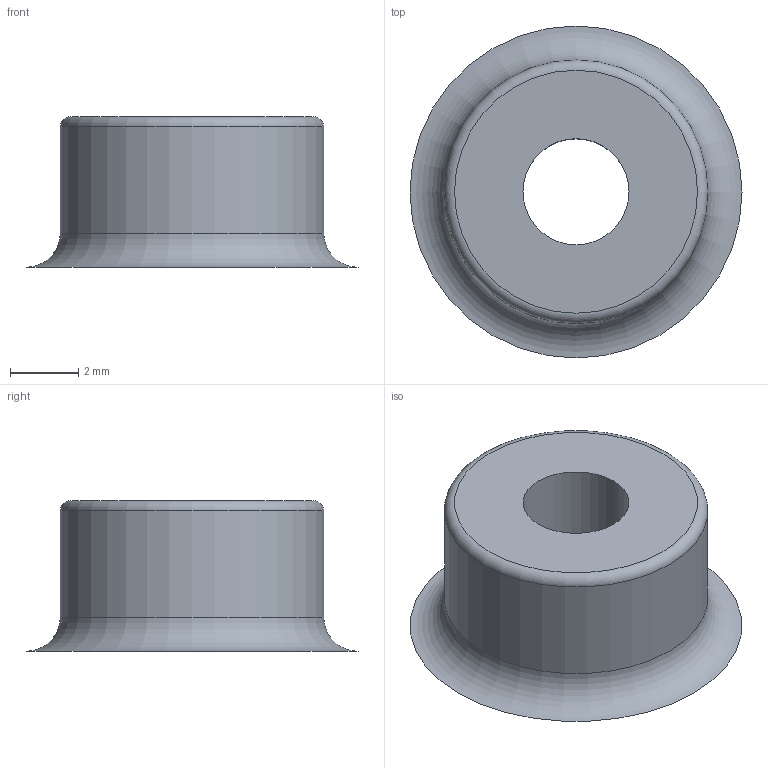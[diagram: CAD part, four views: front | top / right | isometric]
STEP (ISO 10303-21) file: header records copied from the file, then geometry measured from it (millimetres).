
FILE_DESCRIPTION(('Open CASCADE Model'),'2;1');
FILE_NAME('Open CASCADE Shape Model','2026-11-23T18:10:05',('Author'),( 'Open CASCADE'),'Open CASCADE STEP processor 8.0','build123d', 'Unknown');
FILE_SCHEMA(('AUTOMOTIVE_DESIGN { 1 0 10303 214 1 1 1 1 }'));
Length unit declared in the file: millimetre
Products named in the file (1): SOLID
Bounding box: 9.7 x 9.7 x 4.4 mm (x, y, z)
Volume: 176.7 mm3; surface area: 268.9 mm2
Topology: 1 solids, 1 shells, 6 faces, 10 edges, 6 vertices
Faces by surface type: plane 2, torus 2, cylinder 2
Full cylindrical faces by diameter (mm): 3.1 x1, 7.7 x1
Entity records: 288 total; most frequent: DIRECTION 50, CARTESIAN_POINT 45, ORIENTED_EDGE 20, PCURVE 20, DEFINITIONAL_REPRESENTATION 20, LINE 16, VECTOR 16, AXIS2_PLACEMENT_3D 15
